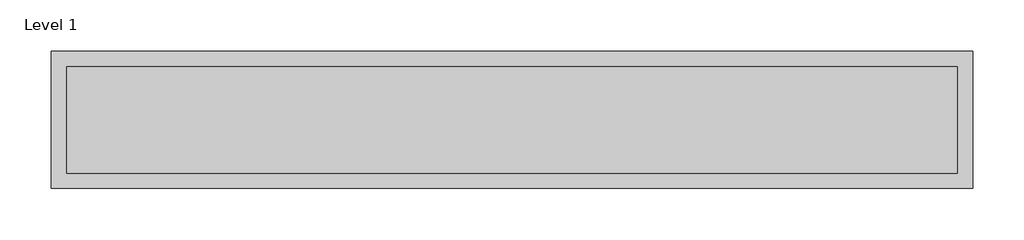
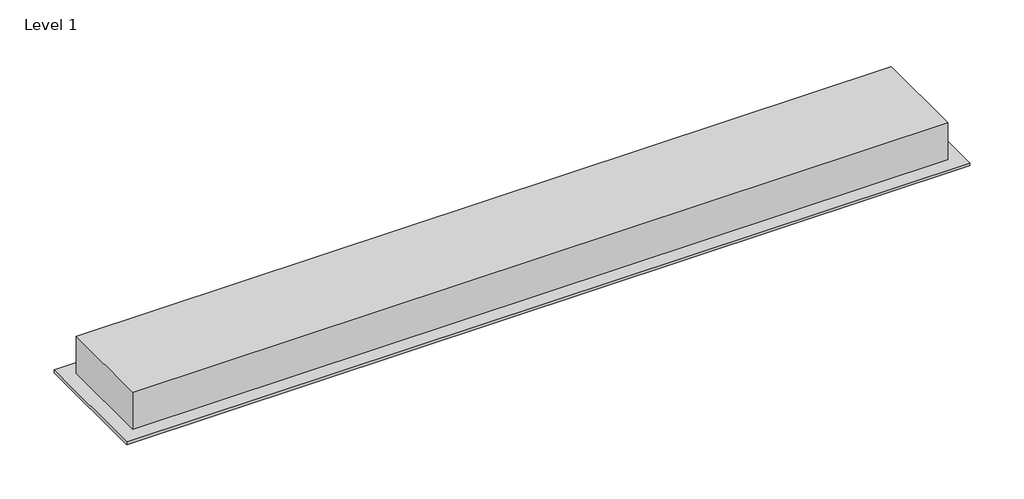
# One storey, incomplete: 1 air terminal.
"""IFC4 building model written with IfcOpenShell, lengths in millimetres."""

from ifc_helpers import new_model, si_unit, origin, place, context, project, spatial, transform, mapped, element, save
from components import csd_19_2_mf_slot_continuous_db82a682

model = new_model("IFC4")

# Units and contexts
model_context = context("Model", 3, world=origin())
ifc_project = project(units=[si_unit("LENGTHUNIT", "METRE", prefix="MILLI")], contexts=[model_context])

# Site, building, storey
site = spatial("IfcSite", under=ifc_project)
building = spatial("IfcBuilding", under=site)
storey = spatial("IfcBuildingStorey", under=building, Name="Level 1", Elevation=0.0)

# Air terminal
placement = place(None, origin())
csd_19_2_mf_slot_continuous_shape = csd_19_2_mf_slot_continuous_db82a682(model_context)
element("IfcAirTerminal", 1, ObjectType="DC_Holyoake_MEQ_CSD-25-2-MF_Slot_Continuous_14 : CSD-19-2-MF Slot Continuous", at=placement, inside=storey, context=model_context, shape_type="MappedRepresentation", body=[
    mapped(csd_19_2_mf_slot_continuous_shape, transform((-1364.8451727, 4765.9552166, 0.0), x_axis=(1.0, 0.0, 0.0), y_axis=(0.0, 1.0, 0.0), z_axis=(0.0, 0.0, 1.0))),
])

save(model, "model.ifc")
